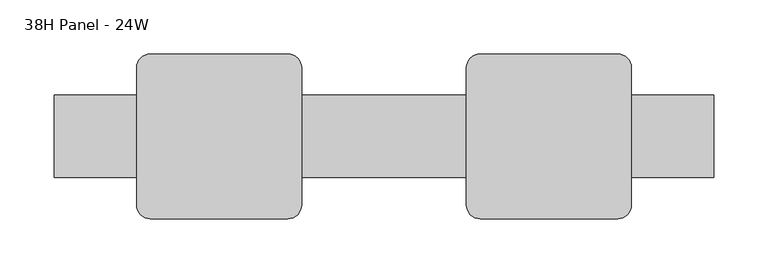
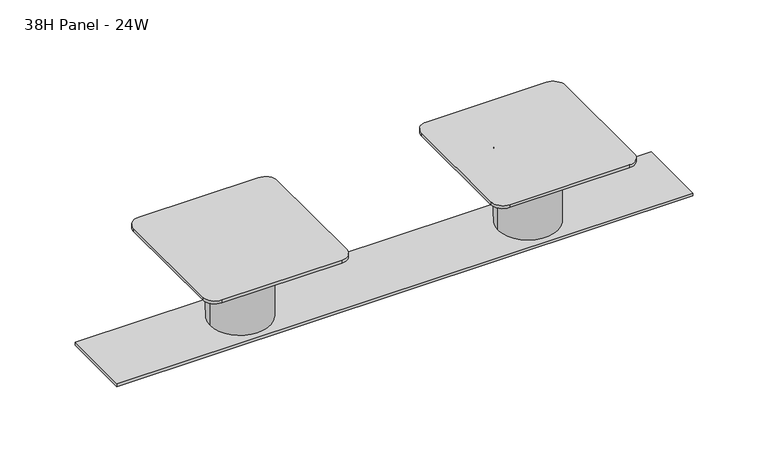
"""IFC4 building model written with IfcOpenShell, lengths in millimetres: furniture geometry, Steelcase - Montage - Healthcare Components - Upmount Transaction Top Brackets : 38H Panel - 24W."""

from ifc_helpers import new_model, si_unit, point, frame, frame_2d, origin, place, context, project, spatial, polyline, circle_curve, trimmed, segment, composite_curve, outline, extrude, source, transform, mapped, element, save


def furniture_38h_panel_24w_276d43ed(model_context):
    return source(origin(), model_context, "Body", "SweptSolid", [
        extrude(outline(composite_curve([segment(trimmed(circle_curve(frame_2d((38.1, 0.0)), 31.75), [point((6.35, 0.0))], [point((69.85, 0.0))], False, "CARTESIAN"), True, "CONTINUOUS"), segment(trimmed(circle_curve(frame_2d((38.1, 0.0)), 31.75), [point((69.85, 0.0))], [point((6.35, 0.0))], False, "CARTESIAN"), True, "CONTINUOUS")], self_intersect=False)), frame((0.0, 0.0, 962.0249758), z_axis=(0.0, 0.0, 1.0), x_axis=(1.0, 0.0, 0.0)), (0.0, 0.0, 1.0), 82.5500242),
        extrude(outline(composite_curve([segment(trimmed(circle_curve(frame_2d((342.9, 0.0)), 31.75), [point((311.15, 0.0))], [point((374.65, 0.0))], False, "CARTESIAN"), True, "CONTINUOUS"), segment(trimmed(circle_curve(frame_2d((342.9, 0.0)), 31.75), [point((374.65, 0.0))], [point((311.15, 0.0))], False, "CARTESIAN"), True, "CONTINUOUS")], self_intersect=False)), frame((0.0, 0.0, 962.0249758), z_axis=(0.0, 0.0, 1.0), x_axis=(1.0, 0.0, 0.0)), (0.0, 0.0, 1.0), 82.5500242),
        extrude(outline(composite_curve([segment(trimmed(circle_curve(frame_2d((101.6, 63.5)), 12.7), [point((101.6, 76.2))], [point((114.3, 63.5))], False, "CARTESIAN"), True, "CONTINUOUS"), segment(polyline([(114.3, 63.5), (114.3, -63.5)]), True, "CONTINUOUS"), segment(trimmed(circle_curve(frame_2d((101.6, -63.5)), 12.7), [point((114.3, -63.5))], [point((101.6, -76.2))], False, "CARTESIAN"), True, "CONTINUOUS"), segment(polyline([(101.6, -76.2), (-25.4, -76.2)]), True, "CONTINUOUS"), segment(trimmed(circle_curve(frame_2d((-25.4, -63.5)), 12.7), [point((-25.4, -76.2))], [point((-38.1, -63.5))], False, "CARTESIAN"), True, "CONTINUOUS"), segment(polyline([(-38.1, -63.5), (-38.1, 63.5)]), True, "CONTINUOUS"), segment(trimmed(circle_curve(frame_2d((-25.4, 63.5)), 12.7), [point((-38.1, 63.5))], [point((-25.4, 76.2))], False, "CARTESIAN"), True, "CONTINUOUS"), segment(polyline([(-25.4, 76.2), (101.6, 76.2)]), True, "CONTINUOUS")], self_intersect=False)), frame((0.0, 0.0, 1044.575), z_axis=(0.0, 0.0, 1.0), x_axis=(1.0, 0.0, 0.0)), (0.0, 0.0, 1.0), 3.1749758),
        extrude(outline(composite_curve([segment(polyline([(279.4, 76.2), (406.4, 76.2)]), True, "CONTINUOUS"), segment(trimmed(circle_curve(frame_2d((406.4, 63.5)), 12.7), [point((406.4, 76.2))], [point((419.1, 63.5))], False, "CARTESIAN"), True, "CONTINUOUS"), segment(polyline([(419.1, 63.5), (419.1, -63.5)]), True, "CONTINUOUS"), segment(trimmed(circle_curve(frame_2d((406.4, -63.5)), 12.7), [point((419.1, -63.5))], [point((406.4, -76.2))], False, "CARTESIAN"), True, "CONTINUOUS"), segment(polyline([(406.4, -76.2), (279.4, -76.2)]), True, "CONTINUOUS"), segment(trimmed(circle_curve(frame_2d((279.4, -63.5)), 12.7), [point((279.4, -76.2))], [point((266.7, -63.5))], False, "CARTESIAN"), True, "CONTINUOUS"), segment(polyline([(266.7, -63.5), (266.7, 63.5)]), True, "CONTINUOUS"), segment(trimmed(circle_curve(frame_2d((279.4, 63.5)), 12.7), [point((266.7, 63.5))], [point((279.4, 76.2))], False, "CARTESIAN"), True, "CONTINUOUS")], self_intersect=False)), frame((0.0, 0.0, 1044.575), z_axis=(0.0, 0.0, 1.0), x_axis=(1.0, 0.0, 0.0)), (0.0, 0.0, 1.0), 3.1749758),
        extrude(outline(polyline([(495.3, -38.1), (-114.3, -38.1), (-114.3, 38.1), (495.3, 38.1), (495.3, -38.1)])), frame((0.0, 0.0, 958.85), z_axis=(0.0, 0.0, 1.0), x_axis=(1.0, 0.0, 0.0)), (0.0, 0.0, 1.0), 3.1749758),
    ])


if __name__ == "__main__":
    model = new_model("IFC4")
    model_context = context("Model", 3, world=origin())
    ifc_project = project(units=[si_unit("LENGTHUNIT", "METRE", prefix="MILLI")], contexts=[model_context])
    site = spatial("IfcSite", under=ifc_project)
    building = spatial("IfcBuilding", under=site)
    placement = place(None, origin())
    furniture_38h_panel_24w_shape = furniture_38h_panel_24w_276d43ed(model_context)
    element("IfcFurniture", 1, ObjectType="Steelcase - Montage - Healthcare Components - Upmount Transaction Top Brackets : 38H Panel - 24W", at=placement, inside=building, context=model_context, shape_type="MappedRepresentation", body=[
        mapped(furniture_38h_panel_24w_shape, transform((0.0, 0.0, 0.0), x_axis=(1.0, 0.0, 0.0), y_axis=(0.0, 1.0, 0.0), z_axis=(0.0, 0.0, 1.0))),
    ])
    save(model, "model.ifc")
